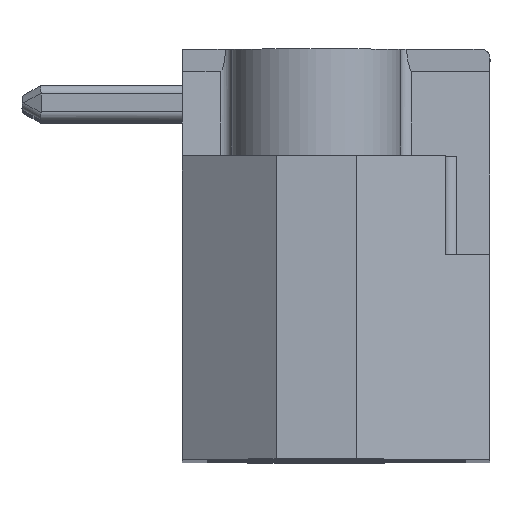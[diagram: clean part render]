
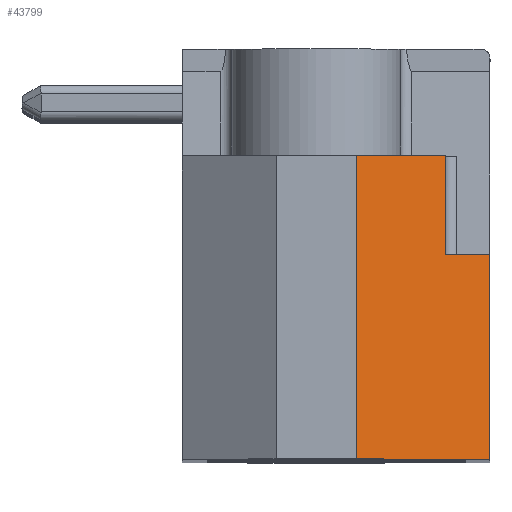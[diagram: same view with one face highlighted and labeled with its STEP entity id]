
A CAD part, top view. The second image highlights one B-rep face of the part: STEP entity #43799.
In plain terms, the highlighted planar face has unit normal (0.574, 0, 0.819).
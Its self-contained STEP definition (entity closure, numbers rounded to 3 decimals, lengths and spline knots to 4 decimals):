
#40520 = EDGE_CURVE ( 'NONE', #40571, #40670, #74276, .T. ) ;
#40522 = VERTEX_POINT ( 'NONE', #74272 ) ;
#40571 = VERTEX_POINT ( 'NONE', #74326 ) ;
#40575 = EDGE_CURVE ( 'NONE', #40522, #40571, #74325, .T. ) ;
#40614 = EDGE_CURVE ( 'NONE', #40670, #40645, #74338, .T. ) ;
#40645 = VERTEX_POINT ( 'NONE', #74374 ) ;
#40670 = VERTEX_POINT ( 'NONE', #74418 ) ;
#43673 = EDGE_LOOP ( 'NONE', ( #43675, #43860, #43739, #43745, #43747, #43749 ) ) ;
#43675 = ORIENTED_EDGE ( 'NONE', *, *, #40614, .T. ) ;
#43677 = VERTEX_POINT ( 'NONE', #77495 ) ;
#43739 = ORIENTED_EDGE ( 'NONE', *, *, #43741, .F. ) ;
#43741 = EDGE_CURVE ( 'NONE', #43789, #43677, #77572, .T. ) ;
#43745 = ORIENTED_EDGE ( 'NONE', *, *, #43788, .T. ) ;
#43747 = ORIENTED_EDGE ( 'NONE', *, *, #40575, .T. ) ;
#43749 = ORIENTED_EDGE ( 'NONE', *, *, #40520, .T. ) ;
#43788 = EDGE_CURVE ( 'NONE', #43789, #40522, #77631, .T. ) ;
#43789 = VERTEX_POINT ( 'NONE', #77630 ) ;
#43799 = ADVANCED_FACE ( 'NONE', ( #77619 ), #77669, .T. ) ;
#43860 = ORIENTED_EDGE ( 'NONE', *, *, #43862, .F. ) ;
#43862 = EDGE_CURVE ( 'NONE', #43677, #40645, #77702, .T. ) ;
#74272 = CARTESIAN_POINT ( 'NONE',  ( 1.3887, -0.7788, -2.1 ) ) ;
#74273 = DIRECTION ( 'NONE',  ( 0., 1., 0. ) ) ;
#74274 = VECTOR ( 'NONE', #74273, 1000. ) ;
#74275 = CARTESIAN_POINT ( 'NONE',  ( 0.3887, -1.9788, -1.3998 ) ) ;
#74276 = LINE ( 'NONE', #74275, #74274 ) ;
#74321 = CARTESIAN_POINT ( 'NONE',  ( 0.3887, -0.7788, -1.3998 ) ) ;
#74322 = CARTESIAN_POINT ( 'NONE',  ( 0.722, -0.7788, -1.6332 ) ) ;
#74323 = CARTESIAN_POINT ( 'NONE',  ( 1.0554, -0.7788, -1.8666 ) ) ;
#74324 = CARTESIAN_POINT ( 'NONE',  ( 1.3887, -0.7788, -2.1 ) ) ;
#74325 = B_SPLINE_CURVE_WITH_KNOTS ( 'NONE', 3,
 ( #74324, #74323, #74322, #74321 ),
 .UNSPECIFIED., .F., .F.,
 ( 4, 4 ),
 ( 0., 1. ),
 .UNSPECIFIED. ) ;
#74326 = CARTESIAN_POINT ( 'NONE',  ( 0.3887, -0.7788, -1.3998 ) ) ;
#74335 = DIRECTION ( 'NONE',  ( -0.819, 0., 0.574 ) ) ;
#74336 = VECTOR ( 'NONE', #74335, 1000. ) ;
#74337 = CARTESIAN_POINT ( 'NONE',  ( -0.1109, 1.4212, -1.05 ) ) ;
#74338 = LINE ( 'NONE', #74337, #74336 ) ;
#74374 = CARTESIAN_POINT ( 'NONE',  ( -1.6104, 1.4212, 0. ) ) ;
#74418 = CARTESIAN_POINT ( 'NONE',  ( 0.3887, 1.4212, -1.3998 ) ) ;
#77495 = CARTESIAN_POINT ( 'NONE',  ( -1.6104, -5.3788, 0. ) ) ;
#77569 = DIRECTION ( 'NONE',  ( -0.819, 0., 0.574 ) ) ;
#77570 = VECTOR ( 'NONE', #77569, 1000. ) ;
#77571 = CARTESIAN_POINT ( 'NONE',  ( 1.3887, -5.3788, -2.1 ) ) ;
#77572 = LINE ( 'NONE', #77571, #77570 ) ;
#77619 = FACE_OUTER_BOUND ( 'NONE', #43673, .T. ) ;
#77626 = CARTESIAN_POINT ( 'NONE',  ( 1.3887, -0.7788, -2.1 ) ) ;
#77627 = CARTESIAN_POINT ( 'NONE',  ( 1.3887, -2.3122, -2.1 ) ) ;
#77628 = CARTESIAN_POINT ( 'NONE',  ( 1.3887, -3.8455, -2.1 ) ) ;
#77629 = CARTESIAN_POINT ( 'NONE',  ( 1.3887, -5.3788, -2.1 ) ) ;
#77630 = CARTESIAN_POINT ( 'NONE',  ( 1.3887, -5.3788, -2.1 ) ) ;
#77631 = B_SPLINE_CURVE_WITH_KNOTS ( 'NONE', 3,
 ( #77629, #77628, #77627, #77626 ),
 .UNSPECIFIED., .F., .F.,
 ( 4, 4 ),
 ( 0., 1. ),
 .UNSPECIFIED. ) ;
#77665 = DIRECTION ( 'NONE',  ( 0.819, 0., -0.574 ) ) ;
#77666 = DIRECTION ( 'NONE',  ( 0.574, 0., 0.819 ) ) ;
#77667 = CARTESIAN_POINT ( 'NONE',  ( -1.6104, -5.3788, 0. ) ) ;
#77668 = AXIS2_PLACEMENT_3D ( 'NONE', #77667, #77666, #77665 ) ;
#77669 = PLANE ( 'NONE',  #77668 ) ;
#77699 = DIRECTION ( 'NONE',  ( 0., 1., 0. ) ) ;
#77700 = VECTOR ( 'NONE', #77699, 1000. ) ;
#77701 = CARTESIAN_POINT ( 'NONE',  ( -1.6104, -1.9788, 0. ) ) ;
#77702 = LINE ( 'NONE', #77701, #77700 ) ;
